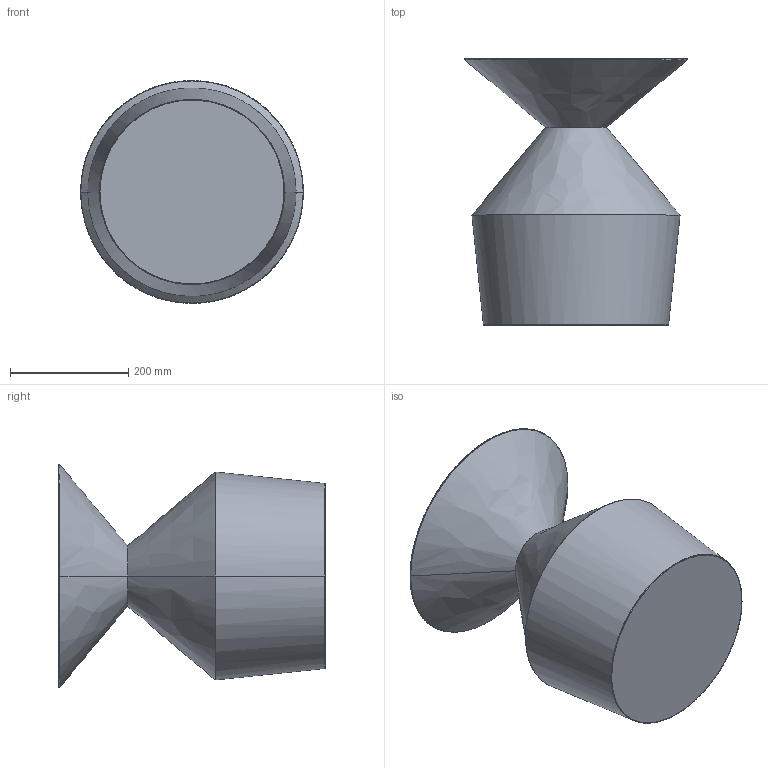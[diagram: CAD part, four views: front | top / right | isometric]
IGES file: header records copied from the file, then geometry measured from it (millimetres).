
Start section: SolidWorks IGES file using NURBS representation for surfaces
Global section: file name: G:\VICCARBE\PRODUCTOS\FAMILIAS 2D - 3D (PRODUCTOS VICCARBE)\3D (IGES + STL + DWG)\08-SHAPE\01-IGES\VICCARBE_ShapeO.IGS; native system: SolidWorks 2009; preprocessor: SolidWorks 2009; author: RUBEN; date: 110831.145613; units: millimetre
Bounding box: 376.5 x 450 x 376.49 mm (x, y, z)
Surface area: 656822.9 mm2 (no closed solid volume)
Topology: 0 solids, 0 shells, 12 faces, 168 edges, 168 vertices
Faces by surface type: bspline 12
